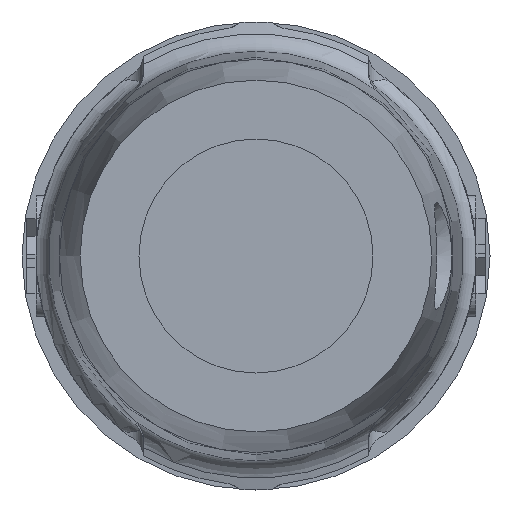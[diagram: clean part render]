
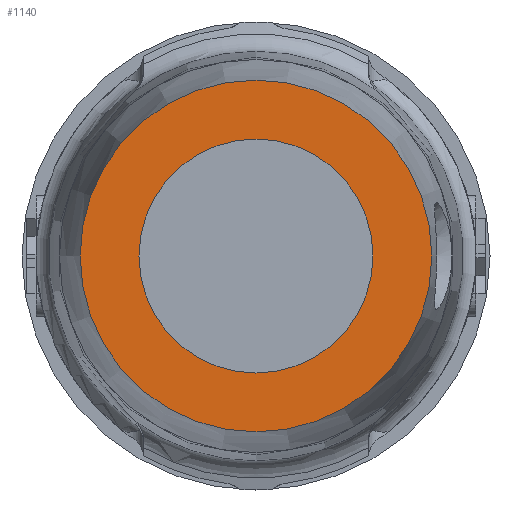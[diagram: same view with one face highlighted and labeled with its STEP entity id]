
A CAD part, left-side view. The second image highlights one B-rep face of the part: STEP entity #1140.
In plain terms, the highlighted planar face has unit normal (-1, 0, 0).
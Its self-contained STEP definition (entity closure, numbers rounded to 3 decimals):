
#1140 = ADVANCED_FACE( '', ( #2405, #2406 ), #2407, .T. );
#2405 = FACE_OUTER_BOUND( '', #3768, .T. );
#2406 = FACE_BOUND( '', #3769, .T. );
#2407 = PLANE( '', #3770 );
#3768 = EDGE_LOOP( '', ( #7435 ) );
#3769 = EDGE_LOOP( '', ( #7436 ) );
#3770 = AXIS2_PLACEMENT_3D( '', #7437, #7438, #7439 );
#7435 = ORIENTED_EDGE( '', *, *, #8843, .F. );
#7436 = ORIENTED_EDGE( '', *, *, #8950, .T. );
#7437 = CARTESIAN_POINT( '', ( -28.6, -1.828, -0.34 ) );
#7438 = DIRECTION( '', ( -1., 0., 0. ) );
#7439 = DIRECTION( '', ( 0., 1., 0. ) );
#8843 = EDGE_CURVE( '', #10856, #10856, #10857, .T. );
#8950 = EDGE_CURVE( '', #10998, #10998, #10999, .T. );
#10856 = VERTEX_POINT( '', #14877 );
#10857 = CIRCLE( '', #14878, 3.758 );
#10998 = VERTEX_POINT( '', #15465 );
#10999 = CIRCLE( '', #15466, 2.5 );
#14877 = CARTESIAN_POINT( '', ( -28.6, 3.758, 0. ) );
#14878 = AXIS2_PLACEMENT_3D( '', #17234, #17235, #17236 );
#15465 = CARTESIAN_POINT( '', ( -28.6, 0., 2.5 ) );
#15466 = AXIS2_PLACEMENT_3D( '', #17311, #17312, #17313 );
#17234 = CARTESIAN_POINT( '', ( -28.6, 0., 0. ) );
#17235 = DIRECTION( '', ( 1., 0., 0. ) );
#17236 = DIRECTION( '', ( 0., 1., 0. ) );
#17311 = CARTESIAN_POINT( '', ( -28.6, 0., 0. ) );
#17312 = DIRECTION( '', ( 1., 0., 0. ) );
#17313 = DIRECTION( '', ( 0., 0., 1. ) );
